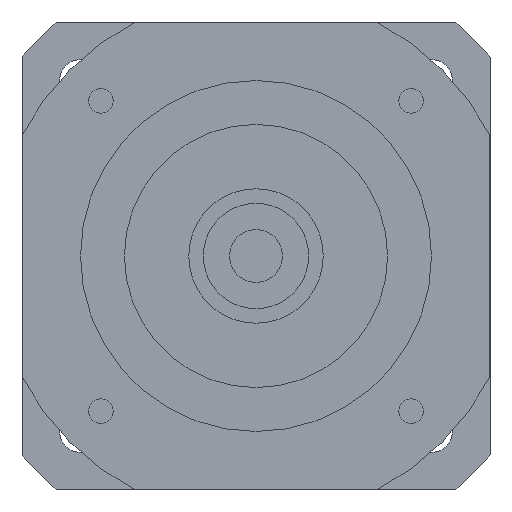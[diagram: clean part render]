
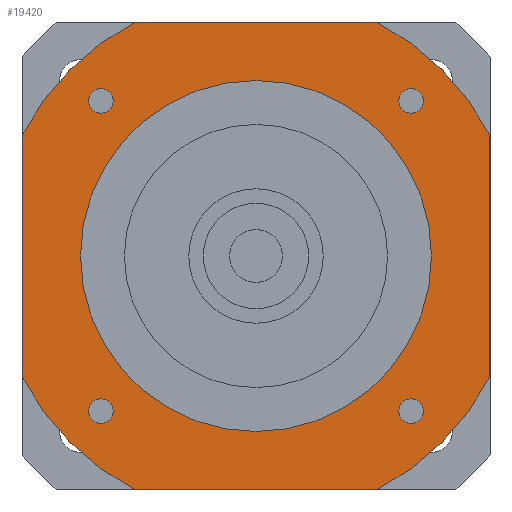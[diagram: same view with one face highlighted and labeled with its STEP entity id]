
A CAD part, left-side view. The second image highlights one B-rep face of the part: STEP entity #19420.
In plain terms, the highlighted planar face has unit normal (-1, 0, 0) as drawn and (0, 0, -1) by its records, which use the part's own axes.
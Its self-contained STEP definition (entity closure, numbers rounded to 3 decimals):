
#13830=CARTESIAN_POINT('',(-40.,-20.616,-42.));
#13840=VERTEX_POINT('',#13830);
#14020=CARTESIAN_POINT('',(-20.616,-40.,-42.));
#14030=VERTEX_POINT('',#14020);
#14060=CARTESIAN_POINT('',(0.,0.,
-42.));
#14070=DIRECTION('',(0.,0.,1.));
#14080=DIRECTION('',(-1.,0.,0.));
#14090=AXIS2_PLACEMENT_3D('',#14060,#14070,#14080);
#14100=CIRCLE('',#14090,45.);
#14110=EDGE_CURVE('',#13840,#14030,#14100,.T.);
#17860=CARTESIAN_POINT('',(40.,40.,-42.));
#17870=DIRECTION('',(0.,0.,1.));
#17880=DIRECTION('',(-1.,0.,0.));
#17890=AXIS2_PLACEMENT_3D('',#17860,#17870,#17880);
#17900=PLANE('',#17890);
#17910=CARTESIAN_POINT('',(-26.517,26.517,-42.));
#17920=DIRECTION('',(0.,0.,-1.));
#17930=DIRECTION('',(0.,-1.,0.));
#17940=AXIS2_PLACEMENT_3D('',#17910,#17920,#17930);
#17950=CIRCLE('',#17940,2.1);
#17960=CARTESIAN_POINT('',(-26.517,24.417,-42.));
#17970=VERTEX_POINT('',#17960);
#17980=CARTESIAN_POINT('',(-28.617,26.517,-42.));
#17990=VERTEX_POINT('',#17980);
#18000=EDGE_CURVE('',#17970,#17990,#17950,.T.);
#18010=ORIENTED_EDGE('',*,*,#18000,.F.);
#18020=CARTESIAN_POINT('',(-24.417,26.517,-42.));
#18030=VERTEX_POINT('',#18020);
#18040=EDGE_CURVE('',#17990,#18030,#17950,.T.);
#18050=ORIENTED_EDGE('',*,*,#18040,.F.);
#18060=EDGE_CURVE('',#18030,#17970,#17950,.T.);
#18070=ORIENTED_EDGE('',*,*,#18060,.F.);
#18080=EDGE_LOOP('',(#18070,#18050,#18010));
#18090=FACE_BOUND('',#18080,.T.);
#18100=CARTESIAN_POINT('',(26.517,26.517,-42.));
#18110=DIRECTION('',(0.,0.,-1.));
#18120=DIRECTION('',(0.,-1.,0.));
#18130=AXIS2_PLACEMENT_3D('',#18100,#18110,#18120);
#18140=CIRCLE('',#18130,2.1);
#18150=CARTESIAN_POINT('',(26.517,24.417,-42.));
#18160=VERTEX_POINT('',#18150);
#18170=CARTESIAN_POINT('',(24.417,26.517,-42.));
#18180=VERTEX_POINT('',#18170);
#18190=EDGE_CURVE('',#18160,#18180,#18140,.T.);
#18200=ORIENTED_EDGE('',*,*,#18190,.F.);
#18210=CARTESIAN_POINT('',(28.617,26.517,-42.));
#18220=VERTEX_POINT('',#18210);
#18230=EDGE_CURVE('',#18180,#18220,#18140,.T.);
#18240=ORIENTED_EDGE('',*,*,#18230,.F.);
#18250=EDGE_CURVE('',#18220,#18160,#18140,.T.);
#18260=ORIENTED_EDGE('',*,*,#18250,.F.);
#18270=EDGE_LOOP('',(#18260,#18240,#18200));
#18280=FACE_BOUND('',#18270,.T.);
#18290=CARTESIAN_POINT('',(26.517,-26.517,-42.));
#18300=DIRECTION('',(0.,0.,-1.));
#18310=DIRECTION('',(0.,-1.,0.));
#18320=AXIS2_PLACEMENT_3D('',#18290,#18300,#18310);
#18330=CIRCLE('',#18320,2.1);
#18340=CARTESIAN_POINT('',(26.517,-28.617,-42.));
#18350=VERTEX_POINT('',#18340);
#18360=CARTESIAN_POINT('',(24.417,-26.517,-42.));
#18370=VERTEX_POINT('',#18360);
#18380=EDGE_CURVE('',#18350,#18370,#18330,.T.);
#18390=ORIENTED_EDGE('',*,*,#18380,.F.);
#18400=CARTESIAN_POINT('',(28.617,-26.517,-42.));
#18410=VERTEX_POINT('',#18400);
#18420=EDGE_CURVE('',#18370,#18410,#18330,.T.);
#18430=ORIENTED_EDGE('',*,*,#18420,.F.);
#18440=EDGE_CURVE('',#18410,#18350,#18330,.T.);
#18450=ORIENTED_EDGE('',*,*,#18440,.F.);
#18460=EDGE_LOOP('',(#18450,#18430,#18390));
#18470=FACE_BOUND('',#18460,.T.);
#18480=CARTESIAN_POINT('',(0.,0.,
-42.));
#18490=DIRECTION('',(0.,0.,1.));
#18500=DIRECTION('',(1.,0.,0.));
#18510=AXIS2_PLACEMENT_3D('',#18480,#18490,#18500);
#18520=CIRCLE('',#18510,30.);
#18530=CARTESIAN_POINT('',(30.,0.,-42.));
#18540=VERTEX_POINT('',#18530);
#18550=CARTESIAN_POINT('',(-30.,0.,-42.));
#18560=VERTEX_POINT('',#18550);
#18570=EDGE_CURVE('',#18540,#18560,#18520,.T.);
#18580=ORIENTED_EDGE('',*,*,#18570,.T.);
#18590=EDGE_CURVE('',#18560,#18540,#18520,.T.);
#18600=ORIENTED_EDGE('',*,*,#18590,.T.);
#18610=EDGE_LOOP('',(#18600,#18580));
#18620=FACE_BOUND('',#18610,.T.);
#18630=CARTESIAN_POINT('',(-26.517,-26.517,-42.));
#18640=DIRECTION('',(0.,0.,-1.));
#18650=DIRECTION('',(0.,-1.,0.));
#18660=AXIS2_PLACEMENT_3D('',#18630,#18640,#18650);
#18670=CIRCLE('',#18660,2.1);
#18680=CARTESIAN_POINT('',(-26.517,-28.617,-42.));
#18690=VERTEX_POINT('',#18680);
#18700=CARTESIAN_POINT('',(-28.617,-26.517,-42.));
#18710=VERTEX_POINT('',#18700);
#18720=EDGE_CURVE('',#18690,#18710,#18670,.T.);
#18730=ORIENTED_EDGE('',*,*,#18720,.F.);
#18740=CARTESIAN_POINT('',(-24.417,-26.517,-42.));
#18750=VERTEX_POINT('',#18740);
#18760=EDGE_CURVE('',#18710,#18750,#18670,.T.);
#18770=ORIENTED_EDGE('',*,*,#18760,.F.);
#18780=EDGE_CURVE('',#18750,#18690,#18670,.T.);
#18790=ORIENTED_EDGE('',*,*,#18780,.F.);
#18800=EDGE_LOOP('',(#18790,#18770,#18730));
#18810=FACE_BOUND('',#18800,.T.);
#18820=ORIENTED_EDGE('',*,*,#14110,.F.);
#18830=CARTESIAN_POINT('',(-40.,-40.,-42.));
#18840=DIRECTION('',(1.,0.,0.));
#18850=VECTOR('',#18840,1000.);
#18860=LINE('',#18830,#18850);
#18870=CARTESIAN_POINT('',(20.616,-40.,-42.));
#18880=VERTEX_POINT('',#18870);
#18890=EDGE_CURVE('',#14030,#18880,#18860,.T.);
#18900=ORIENTED_EDGE('',*,*,#18890,.F.);
#18910=CARTESIAN_POINT('',(0.,0.,
-42.));
#18920=DIRECTION('',(0.,0.,1.));
#18930=DIRECTION('',(-1.,0.,0.));
#18940=AXIS2_PLACEMENT_3D('',#18910,#18920,#18930);
#18950=CIRCLE('',#18940,45.);
#18960=CARTESIAN_POINT('',(40.,-20.616,-42.));
#18970=VERTEX_POINT('',#18960);
#18980=EDGE_CURVE('',#18880,#18970,#18950,.T.);
#18990=ORIENTED_EDGE('',*,*,#18980,.F.);
#19000=CARTESIAN_POINT('',(40.,-40.,-42.));
#19010=DIRECTION('',(0.,1.,0.));
#19020=VECTOR('',#19010,1000.);
#19030=LINE('',#19000,#19020);
#19040=CARTESIAN_POINT('',(40.,20.616,-42.));
#19050=VERTEX_POINT('',#19040);
#19060=EDGE_CURVE('',#18970,#19050,#19030,.T.);
#19070=ORIENTED_EDGE('',*,*,#19060,.F.);
#19080=CARTESIAN_POINT('',(0.,0.,
-42.));
#19090=DIRECTION('',(0.,0.,1.));
#19100=DIRECTION('',(-1.,0.,0.));
#19110=AXIS2_PLACEMENT_3D('',#19080,#19090,#19100);
#19120=CIRCLE('',#19110,45.);
#19130=CARTESIAN_POINT('',(20.616,40.,-42.));
#19140=VERTEX_POINT('',#19130);
#19150=EDGE_CURVE('',#19050,#19140,#19120,.T.);
#19160=ORIENTED_EDGE('',*,*,#19150,.F.);
#19170=CARTESIAN_POINT('',(40.,40.,-42.));
#19180=DIRECTION('',(-1.,0.,0.));
#19190=VECTOR('',#19180,1000.);
#19200=LINE('',#19170,#19190);
#19210=CARTESIAN_POINT('',(-20.616,40.,-42.));
#19220=VERTEX_POINT('',#19210);
#19230=EDGE_CURVE('',#19140,#19220,#19200,.T.);
#19240=ORIENTED_EDGE('',*,*,#19230,.F.);
#19250=CARTESIAN_POINT('',(0.,0.,
-42.));
#19260=DIRECTION('',(0.,0.,1.));
#19270=DIRECTION('',(-1.,0.,0.));
#19280=AXIS2_PLACEMENT_3D('',#19250,#19260,#19270);
#19290=CIRCLE('',#19280,45.);
#19300=CARTESIAN_POINT('',(-40.,20.616,-42.));
#19310=VERTEX_POINT('',#19300);
#19320=EDGE_CURVE('',#19220,#19310,#19290,.T.);
#19330=ORIENTED_EDGE('',*,*,#19320,.F.);
#19340=CARTESIAN_POINT('',(-40.,40.,-42.));
#19350=DIRECTION('',(0.,-1.,0.));
#19360=VECTOR('',#19350,1000.);
#19370=LINE('',#19340,#19360);
#19380=EDGE_CURVE('',#19310,#13840,#19370,.T.);
#19390=ORIENTED_EDGE('',*,*,#19380,.F.);
#19400=EDGE_LOOP('',(#19390,#19330,#19240,#19160,#19070,#18990,#18900,
#18820));
#19410=FACE_OUTER_BOUND('',#19400,.T.);
#19420=ADVANCED_FACE('',(#18090,#18280,#18470,#18620,#18810,#19410),
#17900,.F.);
